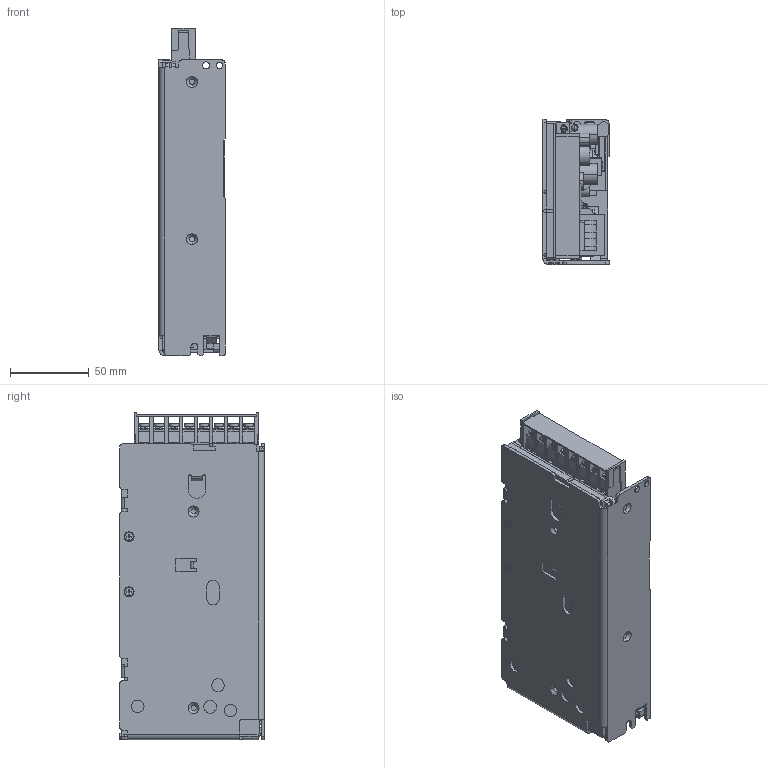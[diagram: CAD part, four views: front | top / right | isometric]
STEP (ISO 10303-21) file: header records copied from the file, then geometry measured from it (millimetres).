
FILE_DESCRIPTION (( 'STEP AP214' ), '1' );
FILE_NAME ('JWT75_OUTLINE.STEP', '2007-04-09T00:34:49', ( ' ' ), ( ' ' ), 'SwSTEP 2.0', 'SolidWorks 2007', '' );
FILE_SCHEMA (( 'AUTOMOTIVE_DESIGN' ));
Length unit declared in the file: millimetre
Products named in the file (1): JWT75_OUTLINE
Bounding box: 42 x 92 x 208 mm (x, y, z)
Volume: 312539 mm3; surface area: 136146.4 mm2
Topology: 2 solids, 7 shells, 2770 faces, 7468 edges, 4767 vertices
Faces by surface type: plane 1582, cylinder 985, torus 97, cone 92, sphere 8, bspline 6
Entity records: 120751 total; most frequent: CARTESIAN_POINT 19164, ORIENTED_EDGE 14892, DIRECTION 14889, EDGE_CURVE 7446, VECTOR 4993, LINE 4993, AXIS2_PLACEMENT_3D 4948, VERTEX_POINT 4765
